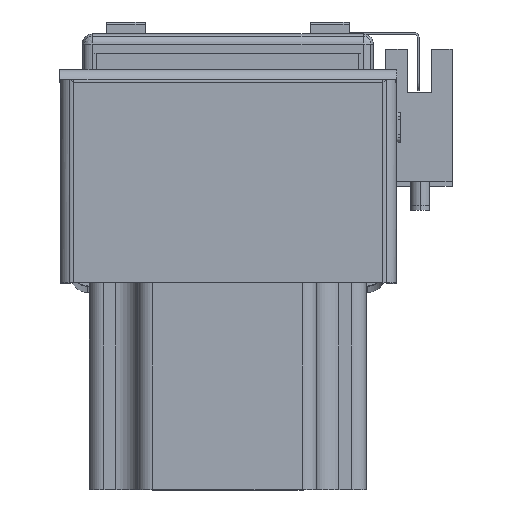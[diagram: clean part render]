
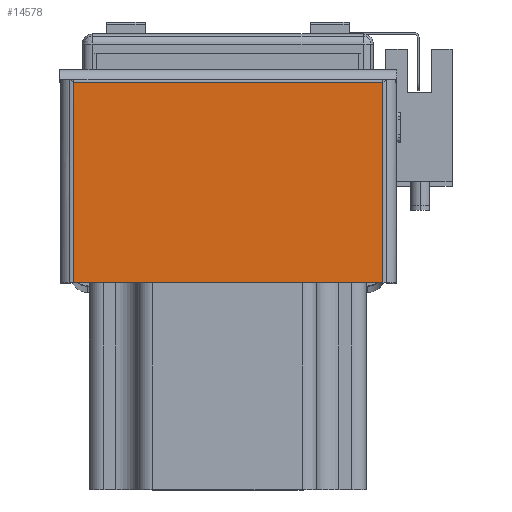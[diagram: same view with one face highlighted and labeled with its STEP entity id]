
A CAD part, top view. The second image highlights one B-rep face of the part: STEP entity #14578.
In plain terms, the highlighted planar face has unit normal (0, 0, 1) as drawn and (1, 0, 0) by its records, which use the part's own axes.
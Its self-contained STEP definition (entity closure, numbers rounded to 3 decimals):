
#2435 = FACE_OUTER_BOUND ( 'NONE', #9480, .T. ) ;
#2828 = EDGE_CURVE ( 'NONE', #35638, #35652, #27709, .T. ) ;
#2961 = EDGE_CURVE ( 'NONE', #34961, #35652, #27791, .T. ) ;
#2965 = EDGE_CURVE ( 'NONE', #35639, #34961, #27825, .T. ) ;
#2986 = EDGE_CURVE ( 'NONE', #35638, #35639, #27796, .T. ) ;
#9480 = EDGE_LOOP ( 'NONE', ( #11086, #11047, #11099, #11043 ) ) ;
#11043 = ORIENTED_EDGE ( 'NONE', *, *, #2828, .F. ) ;
#11047 = ORIENTED_EDGE ( 'NONE', *, *, #2965, .T. ) ;
#11086 = ORIENTED_EDGE ( 'NONE', *, *, #2986, .T. ) ;
#11099 = ORIENTED_EDGE ( 'NONE', *, *, #2961, .T. ) ;
#12100 = AXIS2_PLACEMENT_3D ( 'NONE', #22494, #22482, #22534 ) ;
#14578 = ADVANCED_FACE ( 'NONE', ( #2435 ), #22416, .F. ) ;
#19910 = CARTESIAN_POINT ( 'NONE',  ( 2., 0., 31.863 ) ) ;
#21267 = CARTESIAN_POINT ( 'NONE',  ( 2., 0., -31.863 ) ) ;
#21276 = CARTESIAN_POINT ( 'NONE',  ( 2., 41.263, 31.863 ) ) ;
#21292 = CARTESIAN_POINT ( 'NONE',  ( 2., 41.263, -31.863 ) ) ;
#22416 = PLANE ( 'NONE',  #12100 ) ;
#22482 = DIRECTION ( 'NONE',  ( -1., 0., 0. ) ) ;
#22494 = CARTESIAN_POINT ( 'NONE',  ( 2., 42., -32.6 ) ) ;
#22534 = DIRECTION ( 'NONE',  ( 0., 0., 1. ) ) ;
#23348 = CARTESIAN_POINT ( 'NONE',  ( 2., 42., -31.863 ) ) ;
#23436 = DIRECTION ( 'NONE',  ( 0., -1., 0. ) ) ;
#23821 = DIRECTION ( 'NONE',  ( 0., -1., 0. ) ) ;
#23828 = DIRECTION ( 'NONE',  ( 0., 0., -1. ) ) ;
#23837 = CARTESIAN_POINT ( 'NONE',  ( 2., 0., -32.6 ) ) ;
#23859 = CARTESIAN_POINT ( 'NONE',  ( 2., 42., 31.863 ) ) ;
#23931 = CARTESIAN_POINT ( 'NONE',  ( 2., 41.263, -31.863 ) ) ;
#23952 = DIRECTION ( 'NONE',  ( 0., 0., 1. ) ) ;
#27703 = VECTOR ( 'NONE', #23436, 1000. ) ;
#27709 = LINE ( 'NONE', #23348, #27703 ) ;
#27784 = VECTOR ( 'NONE', #23828, 1000. ) ;
#27791 = LINE ( 'NONE', #23837, #27784 ) ;
#27796 = LINE ( 'NONE', #23931, #27839 ) ;
#27825 = LINE ( 'NONE', #23859, #27832 ) ;
#27832 = VECTOR ( 'NONE', #23821, 1000. ) ;
#27839 = VECTOR ( 'NONE', #23952, 1000. ) ;
#34961 = VERTEX_POINT ( 'NONE', #19910 ) ;
#35638 = VERTEX_POINT ( 'NONE', #21292 ) ;
#35639 = VERTEX_POINT ( 'NONE', #21276 ) ;
#35652 = VERTEX_POINT ( 'NONE', #21267 ) ;
